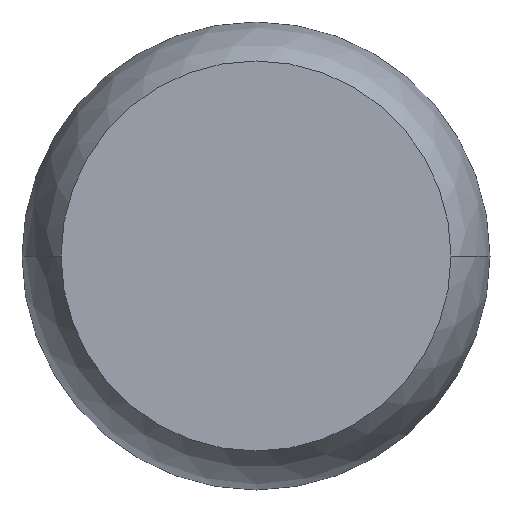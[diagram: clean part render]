
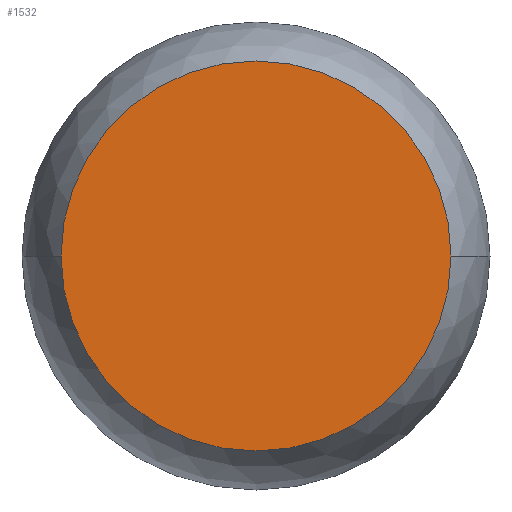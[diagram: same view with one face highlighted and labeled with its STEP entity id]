
A CAD part, front view. The second image highlights one B-rep face of the part: STEP entity #1532.
In plain terms, the highlighted planar face has unit normal (0, -1, 0).
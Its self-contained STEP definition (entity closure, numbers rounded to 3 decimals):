
#26 = VERTEX_POINT ( 'NONE', #1943 ) ;
#310 = CIRCLE ( 'NONE', #2107, 125. ) ;
#371 = VERTEX_POINT ( 'NONE', #1168 ) ;
#612 = DIRECTION ( 'NONE',  ( 1., 0., 0. ) ) ;
#664 = FACE_OUTER_BOUND ( 'NONE', #1175, .T. ) ;
#784 = AXIS2_PLACEMENT_3D ( 'NONE', #1615, #2311, #3100 ) ;
#1072 = DIRECTION ( 'NONE',  ( 0., 1., 0. ) ) ;
#1103 = DIRECTION ( 'NONE',  ( 0., 0., 1. ) ) ;
#1168 = CARTESIAN_POINT ( 'NONE',  ( -5.496, -32.961, -125. ) ) ;
#1175 = EDGE_LOOP ( 'NONE', ( #2628, #1902 ) ) ;
#1367 = CARTESIAN_POINT ( 'NONE',  ( -5.496, -32.961, 0. ) ) ;
#1532 = ADVANCED_FACE ( 'NONE', ( #664 ), #2284, .F. ) ;
#1569 = DIRECTION ( 'NONE',  ( 0., 1., 0. ) ) ;
#1615 = CARTESIAN_POINT ( 'NONE',  ( -5.496, -32.961, 0. ) ) ;
#1662 = AXIS2_PLACEMENT_3D ( 'NONE', #1812, #1072, #612 ) ;
#1812 = CARTESIAN_POINT ( 'NONE',  ( -5.496, -32.961, 0. ) ) ;
#1902 = ORIENTED_EDGE ( 'NONE', *, *, #2041, .F. ) ;
#1910 = EDGE_CURVE ( 'NONE', #371, #26, #310, .T. ) ;
#1943 = CARTESIAN_POINT ( 'NONE',  ( -5.496, -32.961, 125. ) ) ;
#2041 = EDGE_CURVE ( 'NONE', #26, #371, #2989, .T. ) ;
#2107 = AXIS2_PLACEMENT_3D ( 'NONE', #1367, #1569, #1103 ) ;
#2284 = PLANE ( 'NONE',  #1662 ) ;
#2311 = DIRECTION ( 'NONE',  ( 0., 1., 0. ) ) ;
#2628 = ORIENTED_EDGE ( 'NONE', *, *, #1910, .F. ) ;
#2989 = CIRCLE ( 'NONE', #784, 125. ) ;
#3100 = DIRECTION ( 'NONE',  ( 0., 0., 1. ) ) ;
